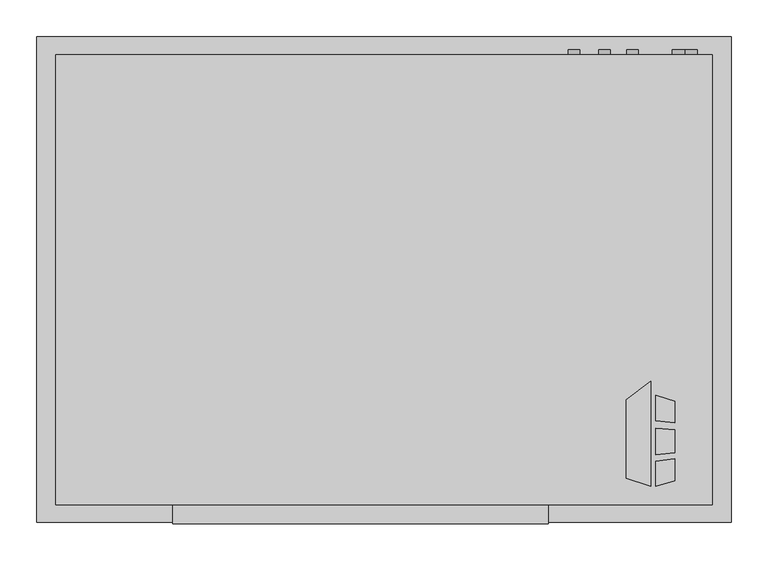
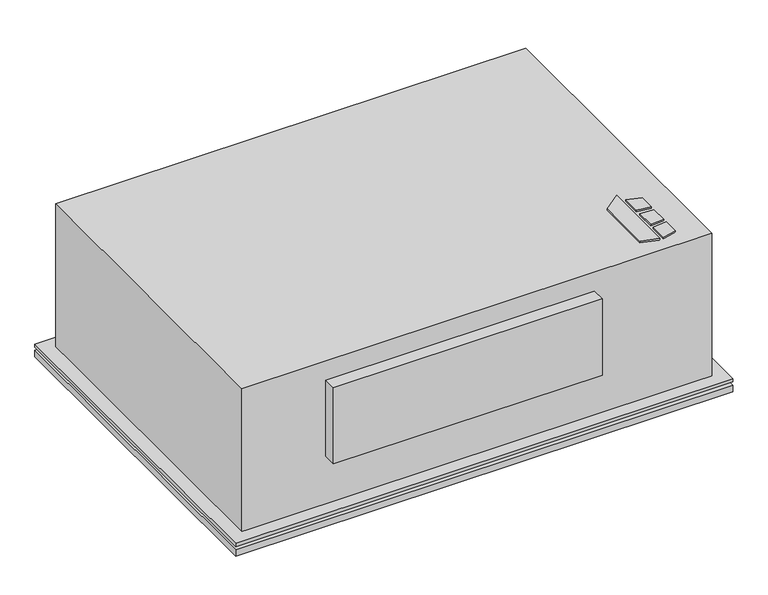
"""IFC4 building model written with IfcOpenShell, lengths in millimetres: proxy geometry, Horizontal_Telescoping_Fan_Coil_Unit_-_CBY_-_IEC_-_4-Pipe_RH_2022 : Size 03 - 277v/60Hz/1Ph - 4/1 Coil."""

from ifc_helpers import new_model, si_unit, point, frame, frame_2d, origin, origin_with_axes, place, context, project, spatial, polyline, circle_curve, trimmed, segment, composite_curve, outline, extrude, source, transform, mapped, element, save


def mechanical_equipment_15e1d8de(model_context):
    return source(origin(), model_context, "Body", "SweptSolid", [
        extrude(outline(polyline([(480.7019761, -401.0078476), (513.2602728, -375.5705184), (513.2602728, -517.525), (480.7019761, -507.3054201), (480.7019761, -401.0078476)])), origin_with_axes(), (0.0, 0.0, 1.0), 3.175),
        extrude(outline(polyline([(520.0186058, -428.879852), (520.0186058, -394.3999379), (546.1, -402.5865115), (546.1, -432.0822446), (520.0186058, -428.879852)])), origin_with_axes(), (0.0, 0.0, 1.0), 3.175),
        extrude(outline(polyline([(546.1, -510.5365115), (520.0186058, -517.525), (520.0186058, -484.3036996), (546.1, -480.7618564), (546.1, -510.5365115)])), origin_with_axes(), (0.0, 0.0, 1.0), 3.175),
        extrude(outline(polyline([(546.1, -441.1638277), (546.1, -472.413983), (520.0186058, -475.155248), (520.0186058, -439.2975378), (546.1, -441.1638277)])), origin_with_axes(), (0.0, 0.0, 1.0), 3.175),
        extrude(outline(composite_curve([segment(trimmed(circle_curve(frame_2d((-60.325, 409.575)), 7.9375), [point((-60.325, 417.5125))], [point((-60.325, 401.6375))], False, "CARTESIAN"), True, "CONTINUOUS"), segment(trimmed(circle_curve(frame_2d((-60.325, 409.575)), 7.9375), [point((-60.325, 401.6375))], [point((-60.325, 417.5125))], False, "CARTESIAN"), True, "CONTINUOUS")], self_intersect=False)), frame((0.0, 66.675, 0.0), z_axis=(0.0, 1.0, 0.0), x_axis=(0.0, 0.0, 1.0)), (0.0, 0.0, 1.0), 6.35),
        extrude(outline(composite_curve([segment(trimmed(circle_curve(frame_2d((-95.25, 450.85)), 7.9375), [point((-95.25, 458.7875))], [point((-95.25, 442.9125))], False, "CARTESIAN"), True, "CONTINUOUS"), segment(trimmed(circle_curve(frame_2d((-95.25, 450.85)), 7.9375), [point((-95.25, 442.9125))], [point((-95.25, 458.7875))], False, "CARTESIAN"), True, "CONTINUOUS")], self_intersect=False)), frame((0.0, 66.675, 0.0), z_axis=(0.0, 1.0, 0.0), x_axis=(0.0, 0.0, 1.0)), (0.0, 0.0, 1.0), 6.35),
        extrude(outline(composite_curve([segment(trimmed(circle_curve(frame_2d((-44.45, 488.95)), 7.9375), [point((-44.45, 496.8875))], [point((-44.45, 481.0125))], False, "CARTESIAN"), True, "CONTINUOUS"), segment(trimmed(circle_curve(frame_2d((-44.45, 488.95)), 7.9375), [point((-44.45, 481.0125))], [point((-44.45, 496.8875))], False, "CARTESIAN"), True, "CONTINUOUS")], self_intersect=False)), frame((0.0, 66.675, 0.0), z_axis=(0.0, 1.0, 0.0), x_axis=(0.0, 0.0, 1.0)), (0.0, 0.0, 1.0), 6.35),
        extrude(outline(composite_curve([segment(trimmed(circle_curve(frame_2d((-85.725, 568.325)), 7.9375), [point((-85.725, 576.2625))], [point((-85.725, 560.3875))], False, "CARTESIAN"), True, "CONTINUOUS"), segment(trimmed(circle_curve(frame_2d((-85.725, 568.325)), 7.9375), [point((-85.725, 560.3875))], [point((-85.725, 576.2625))], False, "CARTESIAN"), True, "CONTINUOUS")], self_intersect=False)), frame((0.0, 66.675, 0.0), z_axis=(0.0, 1.0, 0.0), x_axis=(0.0, 0.0, 1.0)), (0.0, 0.0, 1.0), 6.35),
        extrude(outline(composite_curve([segment(trimmed(circle_curve(frame_2d((-260.35, 552.45)), 9.525), [point((-260.35, 561.975))], [point((-260.35, 542.925))], False, "CARTESIAN"), True, "CONTINUOUS"), segment(trimmed(circle_curve(frame_2d((-260.35, 552.45)), 9.525), [point((-260.35, 542.925))], [point((-260.35, 561.975))], False, "CARTESIAN"), True, "CONTINUOUS")], self_intersect=False)), frame((0.0, 66.675, 0.0), z_axis=(0.0, 1.0, 0.0), x_axis=(0.0, 0.0, 1.0)), (0.0, 0.0, 1.0), 6.35),
        extrude(outline(polyline([(622.3, 90.4875), (622.3, -566.7375), (-317.5, -566.7375), (-317.5, 90.4875), (622.3, 90.4875)])), frame((0.0, 0.0, -311.15), z_axis=(0.0, 0.0, 1.0), x_axis=(1.0, 0.0, 0.0)), (0.0, 0.0, 1.0), 12.7),
        extrude(outline(polyline([(622.3, 90.4875), (622.3, -566.7375), (-317.5, -566.7375), (-317.5, 90.4875), (622.3, 90.4875)])), frame((0.0, 0.0, -292.1), z_axis=(0.0, 0.0, 1.0), x_axis=(1.0, 0.0, 0.0)), (0.0, 0.0, 1.0), 6.35),
        extrude(outline(polyline([(596.9, 65.0875), (596.9, -541.3375), (-292.1, -541.3375), (-292.1, 65.0875), (596.9, 65.0875)])), frame((0.0, 0.0, -298.45), z_axis=(0.0, 0.0, 1.0), x_axis=(1.0, 0.0, 0.0)), (0.0, 0.0, 1.0), 6.35),
        extrude(outline(polyline([(374.65, -568.325), (-133.35, -568.325), (-133.35, -542.925), (374.65, -542.925), (374.65, -568.325)])), frame((0.0, 0.0, -190.5), z_axis=(0.0, 0.0, 1.0), x_axis=(1.0, 0.0, 0.0)), (0.0, 0.0, 1.0), 152.4),
        extrude(outline(polyline([(-292.1, 66.675), (596.9, 66.675), (596.9, -542.925), (-292.1, -542.925), (-292.1, 66.675)])), frame((0.0, 0.0, -285.75), z_axis=(0.0, 0.0, 1.0), x_axis=(1.0, 0.0, 0.0)), (0.0, 0.0, 1.0), 285.75),
        extrude(outline(polyline([(508.0, -9.525), (508.0, -263.525), (-203.2, -263.525), (-203.2, -9.525), (508.0, -9.525)])), frame((0.0, 0.0, -317.5), z_axis=(0.0, 0.0, 1.0), x_axis=(1.0, 0.0, 0.0)), (0.0, 0.0, 1.0), 6.35),
    ])


if __name__ == "__main__":
    model = new_model("IFC4")
    model_context = context("Model", 3, world=origin())
    ifc_project = project(units=[si_unit("LENGTHUNIT", "METRE", prefix="MILLI")], contexts=[model_context])
    site = spatial("IfcSite", under=ifc_project)
    building = spatial("IfcBuilding", under=site)
    placement = place(None, origin())
    mechanical_equipment_shape = mechanical_equipment_15e1d8de(model_context)
    element("IfcBuildingElementProxy", 1, Name="Horizontal_Telescoping_Fan_Coil_Unit_-_CBY_-_IEC_-_4-Pipe_RH_2022 : Size 03 - 277v/60Hz/1Ph - 4/1 Coil", ObjectType="Horizontal_Telescoping_Fan_Coil_Unit_-_CBY_-_IEC_-_4-Pipe_RH_2022 : Size 03 - 277v/60Hz/1Ph - 4/1 Coil", at=placement, inside=building, context=model_context, shape_type="MappedRepresentation", body=[
        mapped(mechanical_equipment_shape, transform((0.0, 0.0, 0.0), x_axis=(1.0, 0.0, 0.0), y_axis=(0.0, 1.0, 0.0), z_axis=(0.0, 0.0, 1.0))),
    ])
    save(model, "model.ifc")
